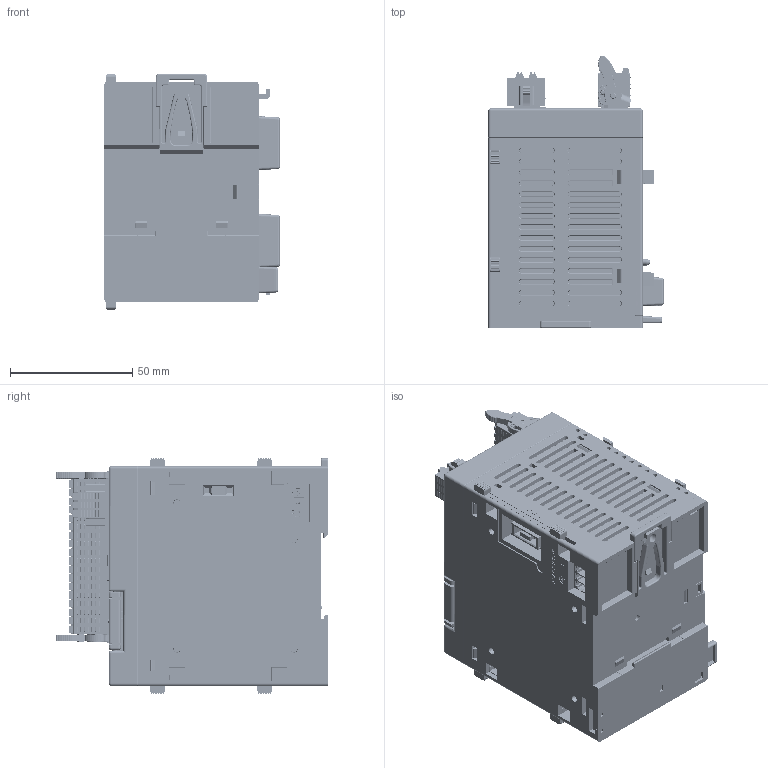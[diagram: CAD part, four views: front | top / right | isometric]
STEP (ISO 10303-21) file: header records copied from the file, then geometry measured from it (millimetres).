
FILE_DESCRIPTION((''),'2;1');
FILE_NAME('XCPU-MAIN-BODY-DOWN-COVER','2024-04-01T23:08:27',('Jacky Chang'),(''),'CREO PARAMETRIC BY PTC INC, 2021284','CREO PARAMETRIC BY PTC INC, 2021284','');
FILE_SCHEMA(('CONFIG_CONTROL_DESIGN','SHAPE_APPEARANCE_LAYERS_GROUPS'));
Products named in the file (1): XCPU-MAIN-BODY-DOWN-COVER
Bounding box: 71.9 x 111.6 x 96.6 mm (x, y, z)
Volume: 501763.8 mm3; surface area: 85610.9 mm2
Topology: 1 solids, 15 shells, 12507 faces, 34603 edges, 22478 vertices
Faces by surface type: plane 6962, cylinder 3586, bspline 730, torus 593, cone 369, extrusion 156, sphere 111
Entity records: 548155 total; most frequent: CARTESIAN_POINT 121907, ORIENTED_EDGE 69022, DIRECTION 60956, PRESENTATION_STYLE_ASSIGNMENT 35512, STYLED_ITEM 34512, CURVE_STYLE 34511, EDGE_CURVE 34511, VECTOR 23040
